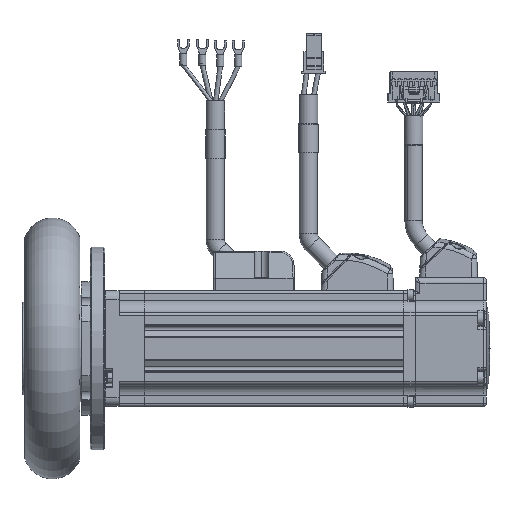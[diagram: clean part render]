
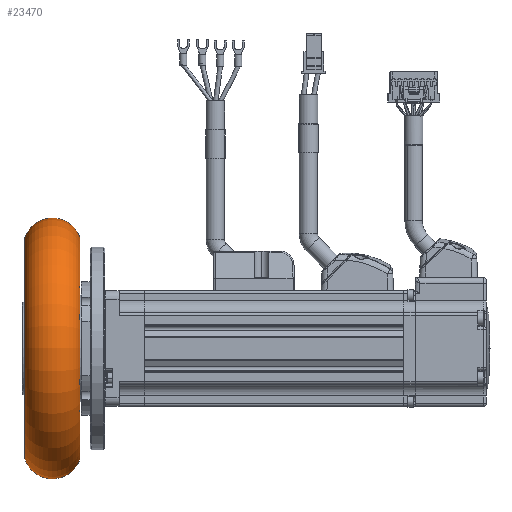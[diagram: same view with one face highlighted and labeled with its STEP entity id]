
A CAD part, front view. The second image highlights one B-rep face of the part: STEP entity #23470.
In plain terms, the highlighted toroidal (fillet/blend) face has major radius 35 mm and minor radius 10 mm.
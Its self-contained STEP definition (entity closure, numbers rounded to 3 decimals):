
#23320=CARTESIAN_POINT('',(0.,0.,0.));
#23321=DIRECTION('',(1.,0.,0.));
#23322=DIRECTION('',(0.,0.,1.));
#23323=AXIS2_PLACEMENT_3D('',#23320,#23321,#23322);
#23335=CARTESIAN_POINT('',(9.5,0.,-35.));
#23336=DIRECTION('',(0.,-1.,0.));
#23337=DIRECTION('',(-0.95,0.,-0.312));
#23338=AXIS2_PLACEMENT_3D('',#23335,#23336,#23337);
#23340=CARTESIAN_POINT('',(9.5,0.,-35.));
#23341=DIRECTION('',(0.,-1.,0.));
#23342=DIRECTION('',(0.,0.,-1.));
#23343=AXIS2_PLACEMENT_3D('',#23340,#23341,#23342);
#23350=CARTESIAN_POINT('',(19.,0.,0.));
#23351=DIRECTION('',(-1.,0.,0.));
#23352=DIRECTION('',(0.,0.,-1.));
#23353=AXIS2_PLACEMENT_3D('',#23350,#23351,#23352);
#23365=CARTESIAN_POINT('',(9.5,0.,35.));
#23366=DIRECTION('',(0.,1.,0.));
#23367=DIRECTION('',(-0.95,0.,0.312));
#23368=AXIS2_PLACEMENT_3D('',#23365,#23366,#23367);
#23370=CARTESIAN_POINT('',(9.5,0.,35.));
#23371=DIRECTION('',(0.,1.,0.));
#23372=DIRECTION('',(0.,0.,1.));
#23373=AXIS2_PLACEMENT_3D('',#23370,#23371,#23372);
#23383=CARTESIAN_POINT('',(0.,0.,-38.122));
#23384=CARTESIAN_POINT('',(0.,0.,
38.122));
#23385=VERTEX_POINT('',#23383);
#23386=VERTEX_POINT('',#23384);
#23391=CARTESIAN_POINT('',(19.,0.,38.122));
#23392=CARTESIAN_POINT('',(19.,0.,-38.122));
#23393=VERTEX_POINT('',#23391);
#23394=VERTEX_POINT('',#23392);
#23395=CARTESIAN_POINT('',(9.5,0.,45.));
#23396=VERTEX_POINT('',#23395);
#23397=CARTESIAN_POINT('',(9.5,0.,-45.));
#23398=VERTEX_POINT('',#23397);
#23457=CARTESIAN_POINT('',(9.5,0.,0.));
#23458=DIRECTION('',(-1.,0.,0.));
#23459=DIRECTION('',(0.,0.,1.));
#23460=AXIS2_PLACEMENT_3D('',#23457,#23458,#23459);
#23461=TOROIDAL_SURFACE('',#23460,35.,10.);
#23462=ORIENTED_EDGE('',*,*,#23433,.F.);
#23463=ORIENTED_EDGE('',*,*,#23410,.F.);
#23464=ORIENTED_EDGE('',*,*,#23430,.T.);
#23465=ORIENTED_EDGE('',*,*,#23428,.T.);
#23466=ORIENTED_EDGE('',*,*,#23446,.F.);
#23467=ORIENTED_EDGE('',*,*,#23435,.F.);
#23468=EDGE_LOOP('',(#23462,#23463,#23464,#23465,#23466,#23467));
#23469=FACE_OUTER_BOUND('',#23468,.F.);
#23470=ADVANCED_FACE('',(#23469),#23461,.T.);
#23324=CIRCLE('',#23323,38.122);
#23339=CIRCLE('',#23338,10.);
#23344=CIRCLE('',#23343,10.);
#23354=CIRCLE('',#23353,38.122);
#23369=CIRCLE('',#23368,10.);
#23374=CIRCLE('',#23373,10.);
#23410=EDGE_CURVE('',#23386,#23385,#23324,.T.);
#23428=EDGE_CURVE('',#23396,#23393,#23374,.T.);
#23430=EDGE_CURVE('',#23386,#23396,#23369,.T.);
#23433=EDGE_CURVE('',#23385,#23398,#23339,.T.);
#23435=EDGE_CURVE('',#23398,#23394,#23344,.T.);
#23446=EDGE_CURVE('',#23394,#23393,#23354,.T.);
